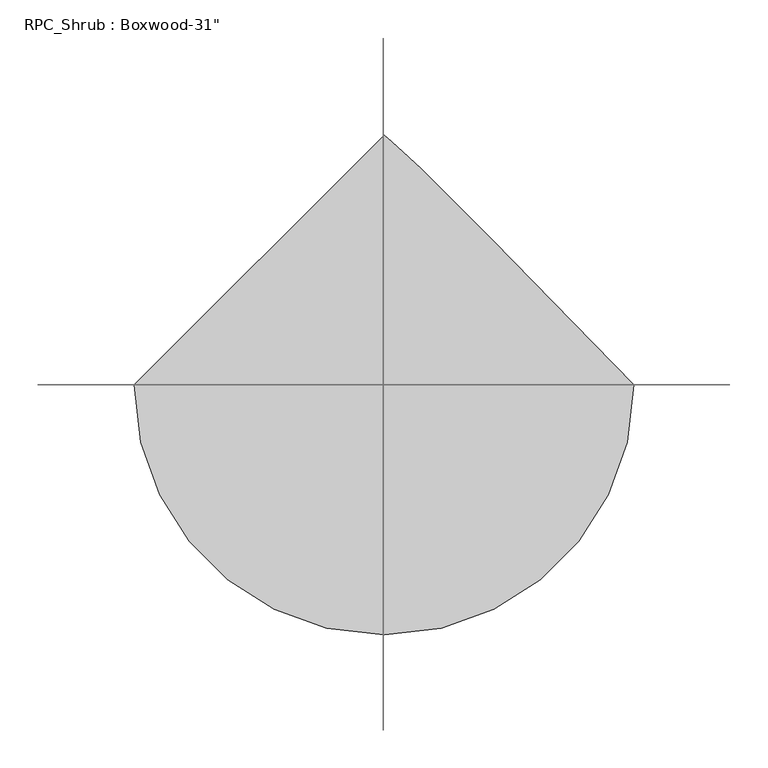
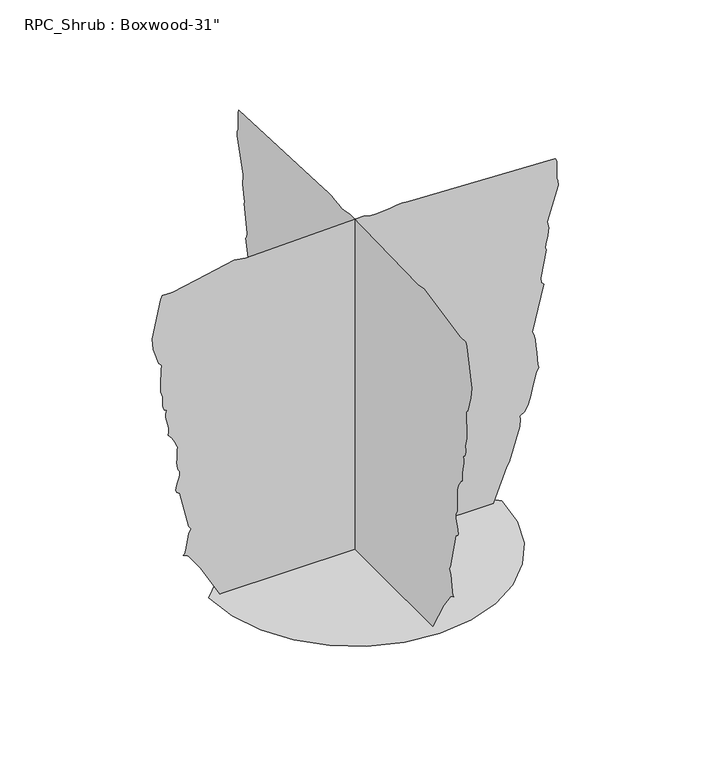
"""IFC4 building model written with IfcOpenShell, lengths in millimetres: geographic element geometry."""

from ifc_helpers import new_model, si_unit, origin, place, context, project, spatial, triangles, source, transform, mapped, element, save


def geographic_element_d4dd0d85(model_context):
    return source(origin(), model_context, "Body", "Tessellation", [
        triangles([(-329.5318116, 0.0, 0.0), (-320.8187533, -75.5067374, 0.0), (-296.0082583, -144.8476449, 0.0), (-257.0861064, -206.0360066, 0.0), (-206.0360066, -257.0861064, 0.0), (-144.8476449, -296.0082583, 0.0), (-75.5067374, -320.8187533, 0.0), (1.44e-05, -329.5318116, 0.0), (75.5067374, -320.8187533, 0.0), (144.8476449, -296.0082583, 0.0), (206.0360066, -257.0861064, 0.0), (257.0861064, -206.0360066, 0.0), (296.0082583, -144.8476449, 0.0), (320.8187533, -75.5067374, 0.0), (329.5318116, 2.88e-05, 0.0), (222.4410009, 109.8484549, 0.0), (143.049417, 190.7250044, 0.0), (86.7404722, 247.4576789, 0.0), (48.8975422, 284.8763978, 0.0), (24.9042325, 307.8094093, 0.0), (10.1438281, 321.0845075, 0.0), (-4.32e-05, 329.5318116, 0.0), (-304.5663115, 3.61e-05, 1.143541), (-348.3654367, 3.15e-05, 78.4073235), (-375.6882239, 2.93e-05, 115.6144365), (-387.245767, 2.89e-05, 121.2303183), (-384.1379989, 2.88e-05, 123.6860187), (-381.5026946, 2.83e-05, 131.8114947), (-379.1478601, 2.76e-05, 143.3387889), (-376.886552, 2.68e-05, 155.9999256), (-374.5341883, 2.62e-05, 167.5274742), (-371.8964132, 2.57e-05, 175.6529411), (-368.7910795, 2.55e-05, 178.1086415), (-374.3422668, 2.51e-05, 185.4922388), (-395.1247192, 2e-05, 271.232227), (-402.1005652, 1.96e-05, 276.958113), (-404.3717202, 1.93e-05, 282.0269896), (-403.3555032, 1.89e-05, 289.2538559), (-400.45935, 1.84e-05, 297.8119091), (-397.0956745, 1.78e-05, 306.874401), (-394.6670437, 1.73e-05, 315.6095873), (-394.585835, 1.69e-05, 323.1957158), (-398.2521446, 1.65e-05, 328.7985715), (-399.9795101, 1.63e-05, 332.6518973), (-400.8998028, 1.59e-05, 339.1848561), (-401.2024369, 1.54e-05, 347.5804919), (-401.0745014, 1.49e-05, 357.0194507), (-400.6980346, 1.43e-05, 366.6872472), (-400.262487, 1.37e-05, 375.7644911), (-399.9499698, 1.33e-05, 383.4367335), (-400.6242019, 1.31e-05, 385.3584912), (-402.5804051, 1.29e-05, 389.9795391), (-405.5183799, 1.25e-05, 396.2885653), (-409.1379627, 1.21e-05, 403.2767653), (-413.138954, 1.17e-05, 409.9302835), (-417.2260228, 1.14e-05, 415.235374), (-421.0966078, 1.12e-05, 418.1832318), (-419.5144006, 1.07e-05, 427.201395), (-420.2132315, 1.01e-05, 436.4558084), (-422.2137271, 9.5e-06, 445.72501), (-424.5414557, 9e-06, 454.7874656), (-426.2245288, 8.5e-06, 463.4218223), (-426.2836095, 8e-06, 471.4040749), (-423.7442296, 7.6e-06, 478.5152687), (-429.3519905, 7.4e-06, 482.4178285), (-432.1792525, 7.1e-06, 487.4375075), (-433.1118264, 6.7e-06, 493.3479389), (-433.0404645, 6.3e-06, 499.9276245), (-432.8485431, 5.9e-06, 506.957646), (-433.4267781, 5.5e-06, 514.2115637), (-435.6610531, 5.1e-06, 521.4704229), (-437.2087784, 4.7e-06, 527.3340912), (-437.8829741, 4.2e-06, 535.6805294), (-437.8928209, 3.6e-06, 545.8306003), (-437.4597442, 2.9e-06, 557.102732), (-436.7929244, 2.2e-06, 568.8128457), (-436.1088819, 1.6e-06, 580.2818041), (-435.621666, 9e-07, 590.8256009), (-441.6871024, 5e-07, 596.947611), (-454.3027205, -1.8e-06, 635.4317808), (-456.6231093, -3.3e-06, 660.094665), (-438.0453916, -8.5e-06, 748.5221163), (-434.2240405, -9e-06, 756.4330433), (-411.6453315, -8.9e-06, 754.9172928), (-357.9889409, -9.6e-06, 766.762718), (-272.1254319, -1.06e-05, 784.0781582), (-246.3011724, -1.03e-05, 779.6883825), (18.5387178, -1.07e-05, 786.309926), (34.2646963, -1.05e-05, 782.4196838), (49.1271158, -1.04e-05, 781.4846392), (63.3741341, -1.05e-05, 782.5132101), (77.2547685, -1.06e-05, 784.5063297), (91.0163013, -1.07e-05, 786.4674019), (104.9080042, -1.08e-05, 787.3999758), (119.1776638, -1.07e-05, 786.309926), (450.2279328, -9.9e-06, 772.4049608), (452.8386746, -9.5e-06, 765.9703972), (452.9149418, -7.1e-06, 725.3774534), (455.5256473, -6.7e-06, 718.9404917), (456.2884641, -6.1e-06, 707.8873873), (432.2555197, -1.4e-06, 629.3491579), (433.5916663, -8e-07, 618.7143419), (434.9622222, -4e-07, 613.0720991), (434.3126252, 0.0, 605.092281), (432.4499119, 6e-07, 595.7099321), (430.1836985, 1.2e-06, 585.8575902), (428.3209851, 1.8e-06, 576.4727706), (427.6713881, 2.3e-06, 568.4929524), (429.0395096, 2.6e-06, 562.850746), (417.1128393, 6.3e-06, 500.1392395), (418.7368681, 7e-06, 488.8302278), (424.0739697, 7.3e-06, 483.2323136), (397.8806193, 1.36e-05, 377.7108476), (401.6453605, 1.4e-05, 370.8481851), (404.2979239, 1.47e-05, 358.5475187), (406.1950464, 1.57e-05, 342.8979289), (407.6837274, 1.67e-05, 325.9959083), (409.1182692, 1.77e-05, 309.9255592), (410.8505399, 1.84e-05, 296.7833563), (413.2324439, 1.89e-05, 288.6583799), (407.3441769, 1.95e-05, 278.390184), (402.6812711, 2.05e-05, 262.4920991), (398.4514784, 2.16e-05, 243.5194382), (393.8574637, 2.28e-05, 224.0231718), (388.1070153, 2.38e-05, 206.5583948), (380.4027981, 2.46e-05, 193.678258), (369.947586, 2.5e-05, 187.9368752), (371.6159071, 2.55e-05, 178.8569243), (369.8196505, 2.64e-05, 163.0299471), (346.2837687, 3.09e-05, 86.8120794), (340.8851521, 3.15e-05, 78.1703648), (309.8615733, 3.61e-05, 1.0143828), (-1.3242394, -303.2425006, 1.1435385), (-1.3242394, -347.041644, 78.4073235), (-1.3242394, -374.3619604, 115.6144365), (-1.3242394, -385.9219743, 121.2303183), (-1.3242394, -382.8142061, 123.6860187), (-1.3242394, -380.1788655, 131.8114947), (-1.3242394, -377.8240311, 143.3387889), (-1.3242394, -375.5627229, 156.00018), (-1.3242394, -373.2079247, 167.5274742), (-1.3242394, -370.5725842, 175.6529411), (-1.3242394, -367.464816, 178.1086415), (-1.3242394, -373.0184378, 185.4922388), (-1.3242394, -393.8008902, 271.232227), (-1.3242394, -400.7767725, 276.958113), (-1.3242394, -403.0454567, 282.0269896), (-1.3242394, -402.0292033, 289.2538559), (-1.3242394, -399.1355209, 297.8119091), (-1.3242394, -395.7718454, 306.874401), (-1.3242394, -393.3432146, 315.6095873), (-1.3242394, -393.2595351, 323.1957158), (-1.3242394, -396.9283519, 328.7985715), (-1.3242394, -398.6532466, 332.6518973), (-1.3242394, -399.5759737, 339.1848561), (-1.3242394, -399.8786442, 347.5804919), (-1.3242394, -399.7506723, 357.0194507), (-1.3242394, -399.3742055, 366.6872472), (-1.3242394, -398.938658, 375.7644911), (-1.3242394, -398.626177, 383.4367335), (-1.3242394, -399.3003728, 385.3584912), (-1.3242394, -401.2565761, 389.9795391), (-1.3242394, -404.1945508, 396.2885653), (-1.3242394, -407.8116992, 403.2767653), (-1.3242394, -411.8151249, 409.9302835), (-1.3242394, -415.9022301, 415.235374), (-1.3242394, -419.7703079, 418.1832318), (-1.3242394, -418.1906078, 427.201395), (-1.3242394, -418.8894024, 436.4558084), (-1.3242394, -420.889898, 445.72501), (-1.3242394, -423.2176629, 454.7874656), (-1.3242394, -424.8982653, 463.4218223), (-1.3242394, -424.9597804, 471.4065456), (-1.3242394, -422.4204005, 478.5152687), (-1.3242394, -428.0281614, 482.4178285), (-1.3242394, -430.8554235, 487.4375075), (-1.3242394, -431.7879973, 493.3479389), (-1.3242394, -431.7166718, 499.9276245), (-1.3242394, -431.524714, 506.957646), (-1.3242394, -432.1029854, 514.2115637), (-1.3242394, -434.337224, 521.4704229), (-1.3242394, -435.8849493, 527.3340912), (-1.3242394, -436.5567106, 535.6805294), (-1.3242394, -436.5689919, 545.8306003), (-1.3242394, -436.1334806, 557.102732), (-1.3242394, -435.4666609, 568.8128457), (-1.3242394, -434.782582, 580.2818041), (-1.3242394, -434.2954024, 590.8256009), (-1.3242394, -440.3633097, 596.947611), (-1.3242394, -452.9789277, 635.4317808), (-1.3242394, -455.2992803, 660.094665), (-1.3242394, -436.7215625, 748.5221163), (-1.3242394, -432.9002114, 756.4330433), (-1.3242394, -410.3215387, 754.9172928), (-1.3242394, -356.6651482, 766.762718), (-1.3242394, -270.801621, 784.0781582), (-1.3242394, -244.976871, 779.6883825), (-1.3242394, 19.8630272, 786.309926), (-1.3242394, 35.588757, 782.4196838), (-1.3242394, 50.4514263, 781.4846392), (-1.3242394, 64.6984446, 782.5132101), (-1.3242394, 78.579079, 784.5063297), (-1.3242394, 92.3406118, 786.4674019), (-1.3242394, 106.2323148, 787.3999758), (-1.3242394, 120.5019743, 786.309926), (-1.3242394, 451.5517619, 772.4049608), (-1.3242394, 454.1624674, 765.9703972), (-1.3242394, 454.2387709, 725.3774534), (-1.3242394, 456.8494763, 718.9404917), (-1.3242394, 457.6122568, 707.8873873), (-1.3242394, 433.5793488, 629.3491579), (-1.3242394, 434.9179298, 618.71674), (-1.3242394, 436.2860513, 613.0720991), (-1.3242394, 435.636418, 605.092281), (-1.3242394, 433.773741, 595.7099321), (-1.3242394, 431.5074912, 585.8575902), (-1.3242394, 429.647285, 576.4727706), (-1.3242394, 428.9952172, 568.4929524), (-1.3242394, 430.3657731, 562.850746), (-1.3242394, 418.4391392, 500.1392395), (-1.3242394, 420.0631316, 488.8302278), (-1.3242394, 425.4002332, 483.2323136), (-1.3242394, 399.2044121, 377.7108476), (-1.3242394, 402.9691895, 370.8481851), (-1.3242394, 405.6241874, 358.5475187), (-1.3242394, 407.5188755, 342.8979289), (-1.3242394, 409.0075564, 325.9959083), (-1.3242394, 410.4420982, 309.9255592), (-1.3242394, 412.174369, 296.7833563), (-1.3242394, 414.556273, 288.6583799), (-1.3242394, 408.6679696, 278.390184), (-1.3242394, 404.0051002, 262.4920991), (-1.3242394, 399.7752711, 243.5194382), (-1.3242394, 395.1812928, 224.0231718), (-1.3242394, 389.4308081, 206.5583948), (-1.3242394, 381.7265908, 193.678258), (-1.3242394, 371.271415, 187.9368752), (-1.3242394, 372.9396998, 178.8569243), (-1.3242394, 371.1434432, 163.0301833), (-1.3242394, 347.6075615, 86.8120794), (-1.3242394, 342.2089448, 78.1703648), (-1.3242394, 311.1878732, 1.0143779)], [[21, 22, 1], [20, 21, 1], [19, 20, 1], [18, 19, 1], [17, 18, 1], [17, 1, 2], [17, 2, 3], [17, 3, 4], [16, 17, 4], [16, 4, 5], [16, 5, 6], [16, 6, 7], [16, 7, 8], [16, 8, 9], [16, 9, 10], [16, 10, 11], [16, 11, 12], [15, 16, 12], [14, 15, 12], [13, 14, 12], [25, 26, 27], [131, 132, 23], [82, 83, 84], [95, 96, 97], [95, 97, 98], [25, 27, 28], [56, 57, 58], [131, 23, 24], [130, 131, 24], [129, 130, 24], [128, 129, 24], [127, 128, 24], [95, 98, 99], [95, 99, 100], [95, 100, 101], [95, 101, 102], [127, 24, 25], [127, 25, 28], [127, 28, 29], [127, 29, 30], [127, 30, 31], [127, 31, 32], [127, 32, 33], [127, 33, 34], [127, 34, 35], [111, 112, 113], [95, 102, 103], [95, 103, 104], [95, 104, 105], [95, 105, 106], [95, 106, 107], [95, 107, 108], [119, 120, 121], [81, 82, 84], [95, 108, 109], [95, 109, 110], [94, 95, 110], [93, 94, 110], [92, 93, 110], [91, 92, 110], [91, 110, 111], [90, 91, 111], [90, 111, 113], [89, 90, 113], [126, 127, 35], [125, 126, 35], [124, 125, 35], [123, 124, 35], [122, 123, 35], [121, 122, 35], [119, 121, 35], [118, 119, 35], [117, 118, 35], [116, 117, 35], [115, 116, 35], [114, 115, 35], [113, 114, 35], [89, 113, 35], [88, 89, 35], [87, 88, 35], [87, 35, 36], [87, 36, 37], [81, 84, 85], [80, 81, 85], [79, 80, 85], [78, 79, 85], [78, 85, 86], [78, 86, 87], [77, 78, 87], [76, 77, 87], [75, 76, 87], [74, 75, 87], [73, 74, 87], [72, 73, 87], [71, 72, 87], [70, 71, 87], [69, 70, 87], [68, 69, 87], [67, 68, 87], [66, 67, 87], [65, 66, 87], [64, 65, 87], [55, 56, 58], [62, 63, 64], [62, 64, 87], [61, 62, 87], [60, 61, 87], [59, 60, 87], [58, 59, 87], [55, 58, 87], [54, 55, 87], [53, 54, 87], [52, 53, 87], [51, 52, 87], [50, 51, 87], [49, 50, 87], [48, 49, 87], [47, 48, 87], [46, 47, 87], [45, 46, 87], [44, 45, 87], [43, 44, 87], [42, 43, 87], [41, 42, 87], [37, 38, 39], [37, 39, 40], [87, 37, 40], [41, 87, 40], [135, 136, 137], [241, 242, 133], [192, 193, 194], [205, 206, 207], [205, 207, 208], [135, 137, 138], [166, 167, 168], [241, 133, 134], [240, 241, 134], [239, 240, 134], [238, 239, 134], [237, 238, 134], [205, 208, 209], [205, 209, 210], [205, 210, 211], [205, 211, 212], [237, 134, 135], [237, 135, 138], [237, 138, 139], [237, 139, 140], [237, 140, 141], [237, 141, 142], [237, 142, 143], [237, 143, 144], [237, 144, 145], [221, 222, 223], [205, 212, 213], [205, 213, 214], [205, 214, 215], [205, 215, 216], [205, 216, 217], [205, 217, 218], [229, 230, 231], [191, 192, 194], [205, 218, 219], [205, 219, 220], [204, 205, 220], [203, 204, 220], [202, 203, 220], [201, 202, 220], [201, 220, 221], [200, 201, 221], [200, 221, 223], [199, 200, 223], [236, 237, 145], [235, 236, 145], [234, 235, 145], [233, 234, 145], [232, 233, 145], [231, 232, 145], [229, 231, 145], [228, 229, 145], [227, 228, 145], [226, 227, 145], [225, 226, 145], [224, 225, 145], [223, 224, 145], [199, 223, 145], [198, 199, 145], [197, 198, 145], [197, 145, 146], [197, 146, 147], [191, 194, 195], [190, 191, 195], [189, 190, 195], [188, 189, 195], [188, 195, 196], [188, 196, 197], [187, 188, 197], [186, 187, 197], [185, 186, 197], [184, 185, 197], [183, 184, 197], [182, 183, 197], [181, 182, 197], [180, 181, 197], [179, 180, 197], [178, 179, 197], [177, 178, 197], [176, 177, 197], [175, 176, 197], [174, 175, 197], [165, 166, 168], [172, 173, 174], [172, 174, 197], [171, 172, 197], [170, 171, 197], [169, 170, 197], [168, 169, 197], [165, 168, 197], [164, 165, 197], [163, 164, 197], [162, 163, 197], [161, 162, 197], [160, 161, 197], [159, 160, 197], [158, 159, 197], [157, 158, 197], [156, 157, 197], [155, 156, 197], [154, 155, 197], [153, 154, 197], [152, 153, 197], [151, 152, 197], [147, 148, 149], [147, 149, 150], [197, 147, 150], [151, 197, 150]], closed=False),
    ])


if __name__ == "__main__":
    model = new_model("IFC4")
    model_context = context("Model", 3, world=origin())
    ifc_project = project(units=[si_unit("LENGTHUNIT", "METRE", prefix="MILLI")], contexts=[model_context])
    site = spatial("IfcSite", under=ifc_project)
    building = spatial("IfcBuilding", under=site)
    placement = place(None, origin())
    geographic_element_shape = geographic_element_d4dd0d85(model_context)
    element("IfcGeographicElement", 1, ObjectType="RPC_Shrub : Boxwood-31\"", at=placement, inside=building, context=model_context, shape_type="MappedRepresentation", body=[
        mapped(geographic_element_shape, transform((0.0, 0.0, 0.0), x_axis=(1.0, 0.0, 0.0), y_axis=(0.0, 1.0, 0.0), z_axis=(0.0, 0.0, 1.0))),
    ])
    save(model, "model.ifc")
